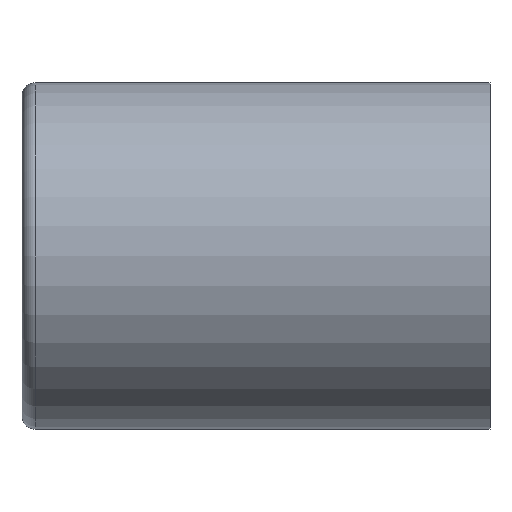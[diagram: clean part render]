
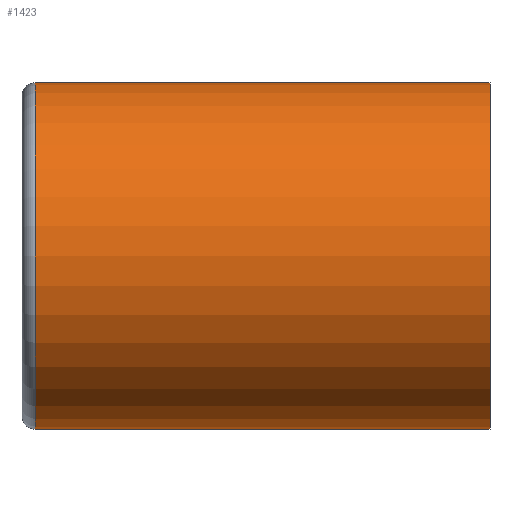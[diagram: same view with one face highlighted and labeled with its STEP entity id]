
A CAD part, front view. The second image highlights one B-rep face of the part: STEP entity #1423.
In plain terms, the highlighted cylindrical face has radius 18.5 mm (diameter 37 mm), a partial arc.
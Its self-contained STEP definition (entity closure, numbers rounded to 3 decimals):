
#194 = ORIENTED_EDGE ( 'NONE', *, *, #4951, .F. ) ;
#828 = VECTOR ( 'NONE', #5134, 1000. ) ;
#992 = AXIS2_PLACEMENT_3D ( 'NONE', #9992, #8553, #8933 ) ;
#1423 = ADVANCED_FACE ( 'NONE', ( #2078 ), #4526, .T. ) ;
#1618 = CARTESIAN_POINT ( 'NONE',  ( -48.6, 0., -18.5 ) ) ;
#1737 = CARTESIAN_POINT ( 'NONE',  ( -48.6, 0., 18.5 ) ) ;
#1757 = CARTESIAN_POINT ( 'NONE',  ( -48.6, 0., 0. ) ) ;
#2078 = FACE_OUTER_BOUND ( 'NONE', #3433, .T. ) ;
#2684 = DIRECTION ( 'NONE',  ( 0., 0., -1. ) ) ;
#3218 = ORIENTED_EDGE ( 'NONE', *, *, #4991, .T. ) ;
#3433 = EDGE_LOOP ( 'NONE', ( #194, #9067, #6614, #3218 ) ) ;
#3560 = LINE ( 'NONE', #7548, #5675 ) ;
#4232 = CARTESIAN_POINT ( 'NONE',  ( -50., 0., 18.5 ) ) ;
#4526 = CYLINDRICAL_SURFACE ( 'NONE', #992, 18.5 ) ;
#4891 = VERTEX_POINT ( 'NONE', #6615 ) ;
#4951 = EDGE_CURVE ( 'NONE', #4891, #9298, #3560, .T. ) ;
#4952 = EDGE_CURVE ( 'NONE', #6260, #11249, #7791, .T. ) ;
#4988 = EDGE_CURVE ( 'NONE', #4891, #6260, #8727, .T. ) ;
#4991 = EDGE_CURVE ( 'NONE', #11249, #9298, #6539, .T. ) ;
#5134 = DIRECTION ( 'NONE',  ( -1., 0., 0. ) ) ;
#5377 = CARTESIAN_POINT ( 'NONE',  ( 0., 0., 0. ) ) ;
#5675 = VECTOR ( 'NONE', #10967, 1000. ) ;
#5678 = AXIS2_PLACEMENT_3D ( 'NONE', #1757, #7814, #2684 ) ;
#5708 = AXIS2_PLACEMENT_3D ( 'NONE', #5377, #11240, #6227 ) ;
#6227 = DIRECTION ( 'NONE',  ( 0., 0., 1. ) ) ;
#6260 = VERTEX_POINT ( 'NONE', #8846 ) ;
#6539 = CIRCLE ( 'NONE', #5678, 18.5 ) ;
#6614 = ORIENTED_EDGE ( 'NONE', *, *, #4952, .T. ) ;
#6615 = CARTESIAN_POINT ( 'NONE',  ( 0., 0., -18.5 ) ) ;
#7548 = CARTESIAN_POINT ( 'NONE',  ( -50., 0., -18.5 ) ) ;
#7791 = LINE ( 'NONE', #4232, #828 ) ;
#7814 = DIRECTION ( 'NONE',  ( 1., 0., 0. ) ) ;
#8553 = DIRECTION ( 'NONE',  ( -1., 0., 0. ) ) ;
#8727 = CIRCLE ( 'NONE', #5708, 18.5 ) ;
#8846 = CARTESIAN_POINT ( 'NONE',  ( 0., 0., 18.5 ) ) ;
#8933 = DIRECTION ( 'NONE',  ( 0., 0., 1. ) ) ;
#9067 = ORIENTED_EDGE ( 'NONE', *, *, #4988, .T. ) ;
#9298 = VERTEX_POINT ( 'NONE', #1618 ) ;
#9992 = CARTESIAN_POINT ( 'NONE',  ( -50., 0., 0. ) ) ;
#10967 = DIRECTION ( 'NONE',  ( -1., 0., 0. ) ) ;
#11240 = DIRECTION ( 'NONE',  ( -1., 0., 0. ) ) ;
#11249 = VERTEX_POINT ( 'NONE', #1737 ) ;
